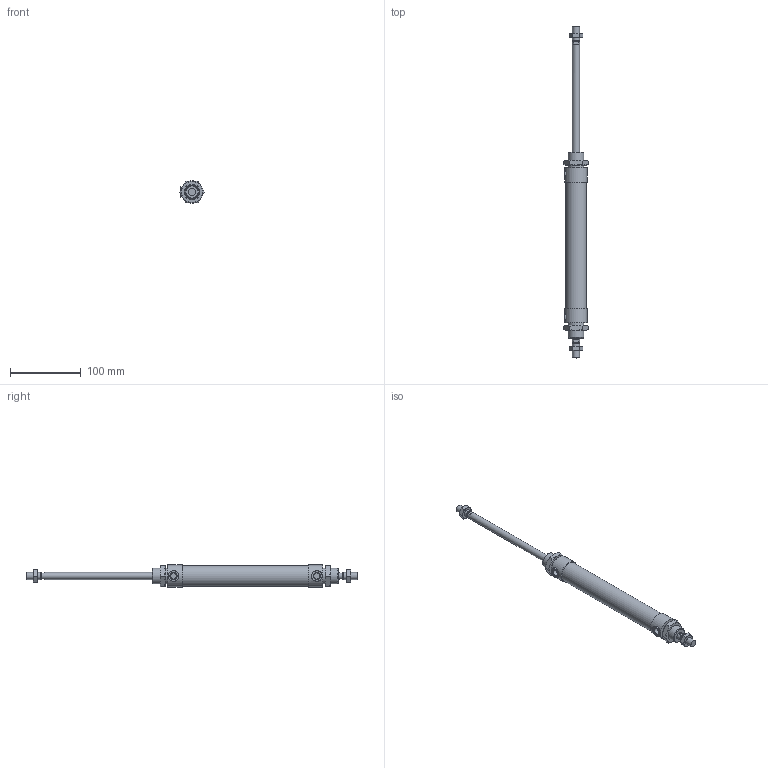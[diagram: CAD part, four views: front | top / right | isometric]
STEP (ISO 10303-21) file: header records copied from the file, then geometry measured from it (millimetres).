
FILE_DESCRIPTION((''),'2;1');
FILE_NAME('L:\Lib-3d\1200\CILINDRI\1232\1232_25_0150.stp','2006-01-05T14:36:30',('medicfa1'),(''),'Autodesk Inventor 10','Autodesk Inventor 10','');
FILE_SCHEMA(('AUTOMOTIVE_DESIGN { 1 0 10303 214 1 1 1 1 }'));
Length unit declared in the file: millimetre
Products named in the file (5): 1232_25_0150; C1232_25_150; S1232_25_150; 1200_25_05; 1200_25_06
Assembly tree (6 placements, depth 2):
  1232_25_0150
    C1232_25_150
    S1232_25_150
    1200_25_05  x2
    1200_25_06  x2
Bounding box: 34.64 x 468 x 31.5 mm (x, y, z)
Volume: 188873.5 mm3; surface area: 54129.9 mm2
Topology: 6 solids, 6 shells, 141 faces, 299 edges, 178 vertices
Faces by surface type: plane 62, cone 54, cylinder 15, bspline 10
Full cylindrical faces by diameter (mm): 8.7 x2, 8.8 x2, 10 x4, 15 x2, 22 x2, 29 x1, 31.5 x2
Entity records: 2620 total; most frequent: CARTESIAN_POINT 721, DIRECTION 390, ORIENTED_EDGE 324, AXIS2_PLACEMENT_3D 177, EDGE_CURVE 162, EDGE_LOOP 136, VERTEX_POINT 110, FACE_OUTER_BOUND 95
